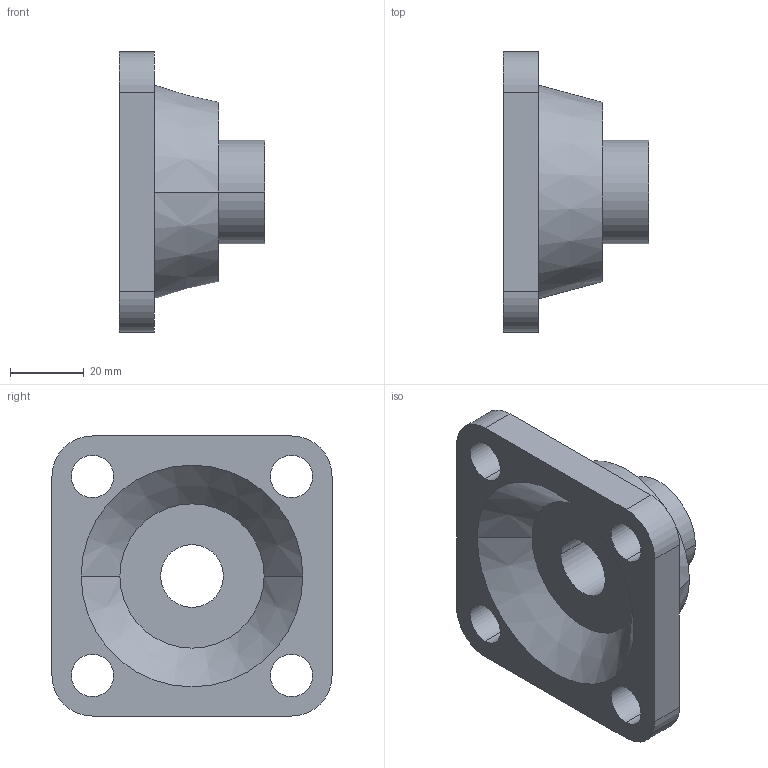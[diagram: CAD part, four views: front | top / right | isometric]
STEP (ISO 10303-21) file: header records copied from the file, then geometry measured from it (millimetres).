
FILE_DESCRIPTION(('SolidDesigner STEP Export'),'2;1');
FILE_NAME('Flanschlager_PCJ_17.stp','2002-07-16T 8:48:30',(''),(''),'SolidDesigner STEP processor Version: 9.0 (March 2001)for AP214(CD)(Solid Model)','CoCreate SolidDesigner: 11.00 12-Dec-2001(C) CoCreate Software GmbH','');
FILE_SCHEMA(('AUTOMOTIVE_DESIGN_CC2 {1 2 10303 214 -1 1 5 1}'));
Length unit declared in the file: millimetre
Products named in the file (1): Flanschlager_PCJ_17
Bounding box: 39.6 x 76 x 76 mm (x, y, z)
Volume: 67503 mm3; surface area: 20562.3 mm2
Topology: 1 solids, 1 shells, 32 faces, 78 edges, 52 vertices
Faces by surface type: cylinder 18, plane 10, cone 4
Entity records: 873 total; most frequent: ORIENTED_EDGE 156, CARTESIAN_POINT 136, DIRECTION 134, EDGE_CURVE 78, VERTEX_POINT 52, AXIS2_PLACEMENT_3D 50, EDGE_LOOP 46, VECTOR 34
